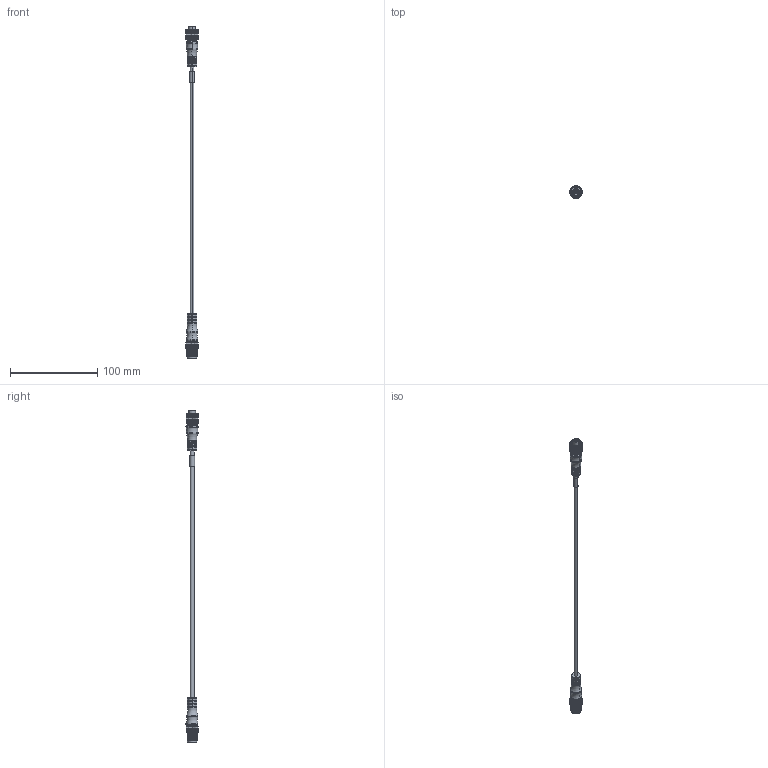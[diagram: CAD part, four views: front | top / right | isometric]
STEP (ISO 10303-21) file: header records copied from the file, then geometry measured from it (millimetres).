
FILE_DESCRIPTION((''),'2;1');
FILE_NAME('889D-B3BBDM-2','2014-01-28T',('20019289'),('Rockwell Automation'),'PRO/ENGINEER BY PARAMETRIC TECHNOLOGY CORPORATION, 2010140','PRO/ENGINEER BY PARAMETRIC TECHNOLOGY CORPORATION, 2010140','');
FILE_SCHEMA(('CONFIG_CONTROL_DESIGN'));
Length unit declared in the file: inch
Products named in the file (1): 889D-B3BBDM-2
Bounding box: 14 x 14.25 x 381 mm (x, y, z)
Volume: 14208.8 mm3; surface area: 10759.1 mm2
Topology: 1 solids, 1 shells, 1058 faces, 2611 edges, 1584 vertices
Faces by surface type: plane 492, cylinder 402, cone 112, torus 52
Entity records: 32051 total; most frequent: CARTESIAN_POINT 6654, DIRECTION 5593, ORIENTED_EDGE 5222, EDGE_CURVE 2611, AXIS2_PLACEMENT_3D 2155, VERTEX_POINT 1584, VECTOR 1283, LINE 1283
